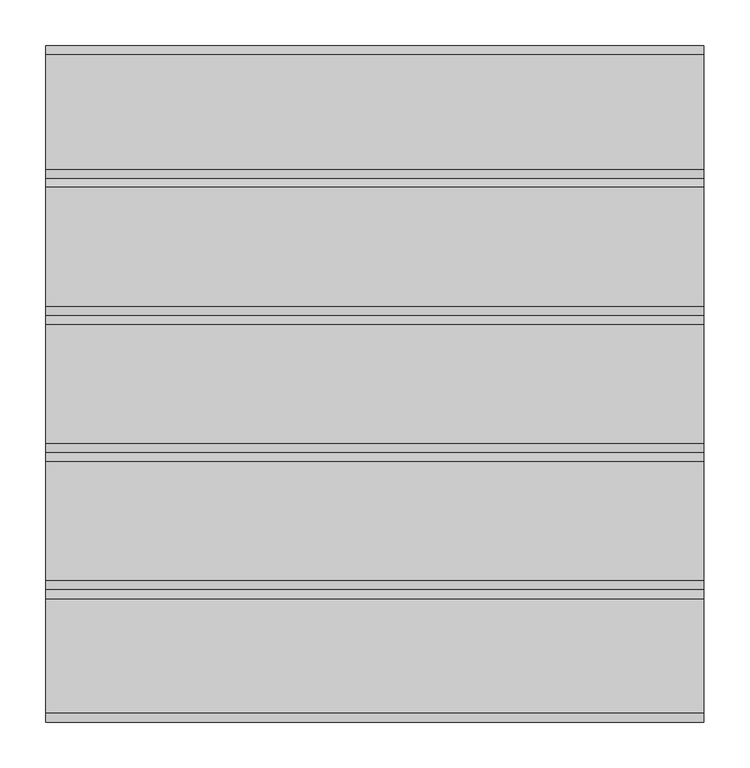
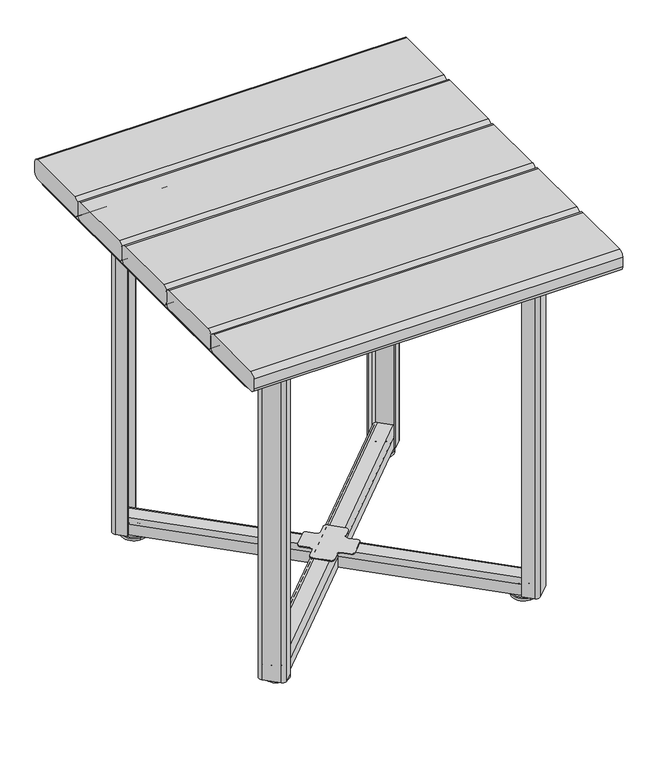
"""IFC4 building model written with IfcOpenShell, lengths in millimetres: furniture geometry, Roros Produkter - Trend - Table - Square - 74x74 - 32995 : Roros Produkter - Trend - Table - Square - 74x74 - 32995."""

from ifc_helpers import new_model, si_unit, point, frame, frame_2d, origin, place, context, project, spatial, polyline, circle_curve, ellipse_curve, trimmed, segment, composite_curve, outline, extrude, source, transform, mapped, element, save
from ifc_brep_helpers import plane_surface, cylinder_surface, revolved_surface, advanced_brep


def furniture_a0f1faf4(model_context):
    return source(origin(), model_context, "Body", "SolidModel", [
        extrude(outline(composite_curve([segment(polyline([(-46.3158909, 24.0593407), (-24.0420273, 46.3332043)]), True, "CONTINUOUS"), segment(trimmed(circle_curve(frame_2d((-19.7993866, 42.0905636)), 6.0), [point((-24.0420273, 46.3332043))], [point((-15.5567459, 46.3332043))], False, "CARTESIAN"), True, "CONTINUOUS"), segment(polyline([(-15.5567459, 46.3332043), (-4.0662607, 34.8427191)]), True, "CONTINUOUS"), segment(trimmed(circle_curve(frame_2d((0.17638, 39.0853598)), 6.0), [point((-4.0662607, 34.8427191))], [point((4.4190207, 34.8427191))], True, "CARTESIAN"), True, "CONTINUOUS"), segment(polyline([(4.4190207, 34.8427191), (15.9095059, 46.3332043)]), True, "CONTINUOUS"), segment(trimmed(circle_curve(frame_2d((20.1521465, 42.0905636)), 6.0), [point((15.9095059, 46.3332043))], [point((24.3947872, 46.3332043))], False, "CARTESIAN"), True, "CONTINUOUS"), segment(polyline([(24.3947872, 46.3332043), (46.6686508, 24.0593407)]), True, "CONTINUOUS"), segment(trimmed(circle_curve(frame_2d((42.4260102, 19.8167)), 6.0), [point((46.6686508, 24.0593407))], [point((46.6686508, 15.5740593))], False, "CARTESIAN"), True, "CONTINUOUS"), segment(polyline([(46.6686508, 15.5740593), (35.1781656, 4.0835741)]), True, "CONTINUOUS"), segment(trimmed(circle_curve(frame_2d((39.4208063, -0.1590666)), 6.0), [point((35.1781656, 4.0835741))], [point((35.1781656, -4.4017073))], True, "CARTESIAN"), True, "CONTINUOUS"), segment(polyline([(35.1781656, -4.4017073), (46.6686508, -15.8921925)]), True, "CONTINUOUS"), segment(trimmed(circle_curve(frame_2d((42.4260102, -20.1348331)), 6.0), [point((46.6686508, -15.8921925))], [point((46.6686508, -24.3774738))], False, "CARTESIAN"), True, "CONTINUOUS"), segment(polyline([(46.6686508, -24.3774738), (24.3947872, -46.6513374)]), True, "CONTINUOUS"), segment(trimmed(circle_curve(frame_2d((20.1521465, -42.4086967)), 6.0), [point((24.3947872, -46.6513374))], [point((15.9095059, -46.6513374))], False, "CARTESIAN"), True, "CONTINUOUS"), segment(polyline([(15.9095059, -46.6513374), (4.4190207, -35.1608522)]), True, "CONTINUOUS"), segment(trimmed(circle_curve(frame_2d((0.17638, -39.4034929)), 6.0), [point((4.4190207, -35.1608522))], [point((-4.0662607, -35.1608522))], True, "CARTESIAN"), True, "CONTINUOUS"), segment(polyline([(-4.0662607, -35.1608522), (-15.5567459, -46.6513374)]), True, "CONTINUOUS"), segment(trimmed(circle_curve(frame_2d((-19.7993866, -42.4086967)), 6.0), [point((-15.5567459, -46.6513374))], [point((-24.0420273, -46.6513374))], False, "CARTESIAN"), True, "CONTINUOUS"), segment(polyline([(-24.0420273, -46.6513374), (-46.3158909, -24.3774738)]), True, "CONTINUOUS"), segment(trimmed(circle_curve(frame_2d((-42.0732502, -20.1348331)), 6.0), [point((-46.3158909, -24.3774738))], [point((-46.3158909, -15.8921925))], False, "CARTESIAN"), True, "CONTINUOUS"), segment(polyline([(-46.3158909, -15.8921925), (-34.8254057, -4.4017073)]), True, "CONTINUOUS"), segment(trimmed(circle_curve(frame_2d((-39.0680464, -0.1590666)), 6.0), [point((-34.8254057, -4.4017073))], [point((-34.8254057, 4.0835741))], True, "CARTESIAN"), True, "CONTINUOUS"), segment(polyline([(-34.8254057, 4.0835741), (-46.3158909, 15.5740593)]), True, "CONTINUOUS"), segment(trimmed(circle_curve(frame_2d((-42.0732502, 19.8167)), 6.0), [point((-46.3158909, 15.5740593))], [point((-46.3158909, 24.0593407))], False, "CARTESIAN"), True, "CONTINUOUS")], self_intersect=False)), frame((0.0, 0.0, 40.0), z_axis=(0.0, 0.0, 1.0), x_axis=(1.0, 0.0, 0.0)), (0.0, 0.0, 1.0), 1.5),
        extrude(outline(polyline([(250.6904144, 236.906746), (242.1904144, 231.9992687), (233.6904144, 236.906746), (233.6904144, 246.7217005), (242.1904144, 251.6291778), (250.6904144, 246.7217005), (250.6904144, 236.906746)])), frame((0.0, 0.0, 10.0), z_axis=(0.0, 0.0, 1.0), x_axis=(1.0, 0.0, 0.0)), (0.0, 0.0, 1.0), 11.7),
        advanced_brep(
        [(241.4759483, 218.3156375, 0.0), (241.4759483, 265.312809, 0.0), (241.4759483, 265.312809, 4.3376919), (241.4759483, 218.3156375, 4.3376919), (241.4759483, 264.3220493, 6.0888539), (241.4759483, 219.3063972, 6.0888539), (241.4759483, 257.812809, 10.0), (241.4759483, 225.8156375, 10.0), (241.4759483, 241.8142233, 10.0), (241.4759483, 241.8142233, 0.0)],
        [
            (0, 1, circle_curve(frame((241.4759483, 241.8142233, 0.0), z_axis=(0.0, 0.0, 1.0), x_axis=(0.0, 1.0, 0.0)), 23.4985858)),
            (1, 2),
            (2, 3, circle_curve(frame((241.4759483, 241.8142233, 4.3376919), z_axis=(0.0, 0.0, -1.0), x_axis=(0.0, 1.0, 0.0)), 23.4985858)),
            (3, 0),
            (1, 0, circle_curve(frame((241.4759483, 241.8142233, 0.0), z_axis=(0.0, 0.0, 1.0), x_axis=(0.0, 1.0, 0.0)), 23.4985858)),
            (3, 2, circle_curve(frame((241.4759483, 241.8142233, 4.3376919), z_axis=(0.0, 0.0, -1.0), x_axis=(0.0, 1.0, 0.0)), 23.4985858)),
            (2, 4, circle_curve(frame((241.4759483, 263.269845, 4.3376919), z_axis=(1.0, 0.0, 0.0), x_axis=(0.0, -1.0, 0.0)), 2.042964)),
            (4, 5, circle_curve(frame((241.4759483, 241.8142233, 6.0888539), z_axis=(0.0, 0.0, -1.0), x_axis=(0.0, 1.0, 0.0)), 22.507826)),
            (5, 3, circle_curve(frame((241.4759483, 220.3586015, 4.3376919), z_axis=(1.0, 0.0, 0.0), x_axis=(0.0, 1.0, 0.0)), 2.042964)),
            (5, 4, circle_curve(frame((241.4759483, 241.8142233, 6.0888539), z_axis=(0.0, 0.0, -1.0), x_axis=(0.0, 1.0, 0.0)), 22.507826)),
            (4, 6),
            (6, 7, circle_curve(frame((241.4759483, 241.8142233, 10.0), z_axis=(0.0, 0.0, -1.0), x_axis=(0.0, 1.0, 0.0)), 15.9985858)),
            (7, 5),
            (7, 6, circle_curve(frame((241.4759483, 241.8142233, 10.0), z_axis=(0.0, 0.0, -1.0), x_axis=(0.0, 1.0, 0.0)), 15.9985858)),
            (6, 8),
            (8, 7),
            (9, 1),
            (0, 9),
        ],
        [
            cylinder_surface(frame((241.4759483, 241.8142233, 10.0), z_axis=(0.0, 0.0, -1.0), x_axis=(0.0, 1.0, 0.0)), 23.4985858),
            revolved_surface(trimmed(ellipse_curve(frame((241.4759483, 263.269845, 4.3376919), z_axis=(-1.0, 0.0, 0.0), x_axis=(0.0, -1.0, 0.0)), 2.042964, 2.042964), [point((241.4759483, 264.3220493, 6.0888539))], [point((241.4759483, 265.312809, 4.3376919))], True, "CARTESIAN"), (241.4759483, 241.8142233, 10.0), (0.0, 0.0, -1.0)),
            revolved_surface(polyline([(241.4759483, 257.812809, 10.0), (241.4759483, 264.3220493, 6.0888539)]), (241.4759483, 241.8142233, 10.0), (0.0, 0.0, -1.0)),
            plane_surface(frame((241.4759483, 241.8142233, 10.0), z_axis=(0.0, 0.0, 1.0), x_axis=(0.0, 1.0, 0.0))),
            plane_surface(frame((241.4759483, 241.8142233, 0.0), z_axis=(0.0, 0.0, -1.0), x_axis=(0.0, 1.0, 0.0))),
        ],
        [
            (0, [[1, 2, 3, 4]]),
            (0, [[5, -4, 6, -2]]),
            (1, [[-3, 7, 8, 9]]),
            (1, [[-6, -9, 10, -7]]),
            (2, [[-8, 11, 12, 13]]),
            (2, [[-10, -13, 14, -11]]),
            (3, [[-12, 15, 16]]),
            (3, [[-14, -16, -15]]),
            (4, [[17, -1, 18]]),
            (4, [[-18, -5, -17]]),
        ],
    ),
        extrude(outline(composite_curve([segment(trimmed(circle_curve(frame_2d((271.352624, 247.2928866)), 8.0), [point((277.0094782, 252.9497408))], [point((277.0094782, 241.6360323))], False, "CARTESIAN"), True, "CONTINUOUS"), segment(polyline([(277.0094782, 241.6360323), (261.4531291, 226.0796832), (259.3318087, 228.2010035), (274.8881579, 243.7573527)]), True, "CONTINUOUS"), segment(trimmed(circle_curve(frame_2d((271.352624, 247.2928866)), 5.0), [point((274.8881579, 243.7573527))], [point((274.8881579, 250.8284205))], True, "CARTESIAN"), True, "CONTINUOUS"), segment(polyline([(274.8881579, 250.8284205), (250.8465273, 274.8700511)]), True, "CONTINUOUS"), segment(trimmed(circle_curve(frame_2d((247.3109934, 271.3345172)), 5.0), [point((250.8465273, 274.8700511))], [point((243.7754595, 274.8700511))], True, "CARTESIAN"), True, "CONTINUOUS"), segment(polyline([(243.7754595, 274.8700511), (228.2191103, 259.3137019), (226.09779, 261.4350222), (241.6541392, 276.9913714)]), True, "CONTINUOUS"), segment(trimmed(circle_curve(frame_2d((247.3109934, 271.3345172)), 8.0), [point((241.6541392, 276.9913714))], [point((252.9678477, 276.9913714))], False, "CARTESIAN"), True, "CONTINUOUS"), segment(polyline([(252.9678477, 276.9913714), (277.0094782, 252.9497408)]), True, "CONTINUOUS")], self_intersect=False)), frame((0.0, 0.0, 9.3192284), z_axis=(0.0, 0.0, 1.0), x_axis=(1.0, 0.0, 0.0)), (0.0, 0.0, 1.0), 692.8807716),
        extrude(outline(polyline([(250.6904144, -236.906746), (250.6904144, -246.7217005), (242.1904144, -251.6291778), (233.6904144, -246.7217005), (233.6904144, -236.906746), (242.1904144, -231.9992687), (250.6904144, -236.906746)])), frame((0.0, 0.0, 10.0), z_axis=(0.0, 0.0, 1.0), x_axis=(1.0, 0.0, 0.0)), (0.0, 0.0, 1.0), 11.7),
        advanced_brep(
        [(241.4759483, -218.3156375, 4.3376919), (241.4759483, -265.312809, 4.3376919), (241.4759483, -265.312809, 0.0), (241.4759483, -218.3156375, 0.0), (241.4759483, -219.3063972, 6.0888539), (241.4759483, -264.3220493, 6.0888539), (241.4759483, -225.8156375, 10.0), (241.4759483, -257.812809, 10.0), (241.4759483, -241.8142233, 10.0), (241.4759483, -241.8142233, 0.0)],
        [
            (0, 1, circle_curve(frame((241.4759483, -241.8142233, 4.3376919), z_axis=(0.0, 0.0, -1.0), x_axis=(0.0, -1.0, 0.0)), 23.4985858)),
            (1, 2),
            (2, 3, circle_curve(frame((241.4759483, -241.8142233, 0.0), z_axis=(0.0, 0.0, 1.0), x_axis=(0.0, -1.0, 0.0)), 23.4985858)),
            (3, 0),
            (1, 0, circle_curve(frame((241.4759483, -241.8142233, 4.3376919), z_axis=(0.0, 0.0, -1.0), x_axis=(0.0, -1.0, 0.0)), 23.4985858)),
            (3, 2, circle_curve(frame((241.4759483, -241.8142233, 0.0), z_axis=(0.0, 0.0, 1.0), x_axis=(0.0, -1.0, 0.0)), 23.4985858)),
            (4, 5, circle_curve(frame((241.4759483, -241.8142233, 6.0888539), z_axis=(0.0, 0.0, -1.0), x_axis=(0.0, -1.0, 0.0)), 22.507826)),
            (5, 1, circle_curve(frame((241.4759483, -263.269845, 4.3376919), z_axis=(1.0, 0.0, 0.0), x_axis=(0.0, 1.0, 0.0)), 2.042964)),
            (0, 4, circle_curve(frame((241.4759483, -220.3586015, 4.3376919), z_axis=(1.0, 0.0, 0.0), x_axis=(0.0, -1.0, 0.0)), 2.042964)),
            (5, 4, circle_curve(frame((241.4759483, -241.8142233, 6.0888539), z_axis=(0.0, 0.0, -1.0), x_axis=(0.0, -1.0, 0.0)), 22.507826)),
            (6, 7, circle_curve(frame((241.4759483, -241.8142233, 10.0), z_axis=(0.0, 0.0, -1.0), x_axis=(0.0, -1.0, 0.0)), 15.9985858)),
            (7, 5),
            (4, 6),
            (7, 6, circle_curve(frame((241.4759483, -241.8142233, 10.0), z_axis=(0.0, 0.0, -1.0), x_axis=(0.0, -1.0, 0.0)), 15.9985858)),
            (8, 7),
            (6, 8),
            (2, 9),
            (9, 3),
        ],
        [
            cylinder_surface(frame((241.4759483, -241.8142233, 10.0), z_axis=(0.0, 0.0, 1.0), x_axis=(0.0, -1.0, 0.0)), 23.4985858),
            revolved_surface(trimmed(ellipse_curve(frame((241.4759483, -263.269845, 4.3376919), z_axis=(-1.0, 0.0, 0.0), x_axis=(0.0, 1.0, 0.0)), 2.042964, 2.042964), [point((241.4759483, -265.312809, 4.3376919))], [point((241.4759483, -264.3220493, 6.0888539))], True, "CARTESIAN"), (241.4759483, -241.8142233, 10.0), (0.0, 0.0, 1.0)),
            revolved_surface(polyline([(241.4759483, -264.3220493, 6.0888539), (241.4759483, -257.812809, 10.0)]), (241.4759483, -241.8142233, 10.0), (0.0, 0.0, 1.0)),
            plane_surface(frame((241.4759483, -241.8142233, 10.0), z_axis=(0.0, 0.0, 1.0), x_axis=(0.0, -1.0, 0.0))),
            plane_surface(frame((241.4759483, -241.8142233, 0.0), z_axis=(0.0, 0.0, -1.0), x_axis=(0.0, -1.0, 0.0))),
        ],
        [
            (0, [[1, 2, 3, 4]]),
            (0, [[5, -4, 6, -2]]),
            (1, [[7, 8, -1, 9]]),
            (1, [[10, -9, -5, -8]]),
            (2, [[11, 12, -7, 13]]),
            (2, [[14, -13, -10, -12]]),
            (3, [[15, -11, 16]]),
            (3, [[-16, -14, -15]]),
            (4, [[-3, 17, 18]]),
            (4, [[-6, -18, -17]]),
        ],
    ),
        extrude(outline(composite_curve([segment(polyline([(277.0094782, -252.9497408), (252.9678477, -276.9913714)]), True, "CONTINUOUS"), segment(trimmed(circle_curve(frame_2d((247.3109934, -271.3345172)), 8.0), [point((252.9678477, -276.9913714))], [point((241.6541392, -276.9913714))], False, "CARTESIAN"), True, "CONTINUOUS"), segment(polyline([(241.6541392, -276.9913714), (226.09779, -261.4350222), (228.2191103, -259.3137019), (243.7754595, -274.8700511)]), True, "CONTINUOUS"), segment(trimmed(circle_curve(frame_2d((247.3109934, -271.3345172)), 5.0), [point((243.7754595, -274.8700511))], [point((250.8465273, -274.8700511))], True, "CARTESIAN"), True, "CONTINUOUS"), segment(polyline([(250.8465273, -274.8700511), (274.8881579, -250.8284205)]), True, "CONTINUOUS"), segment(trimmed(circle_curve(frame_2d((271.352624, -247.2928866)), 5.0), [point((274.8881579, -250.8284205))], [point((274.8881579, -243.7573527))], True, "CARTESIAN"), True, "CONTINUOUS"), segment(polyline([(274.8881579, -243.7573527), (259.3318087, -228.2010035), (261.4531291, -226.0796832), (277.0094782, -241.6360323)]), True, "CONTINUOUS"), segment(trimmed(circle_curve(frame_2d((271.352624, -247.2928866)), 8.0), [point((277.0094782, -241.6360323))], [point((277.0094782, -252.9497408))], False, "CARTESIAN"), True, "CONTINUOUS")], self_intersect=False)), frame((0.0, 0.0, 9.3192284), z_axis=(0.0, 0.0, 1.0), x_axis=(1.0, 0.0, 0.0)), (0.0, 0.0, 1.0), 692.8807716),
        extrude(outline(polyline([(-250.6904144, 236.906746), (-250.6904144, 246.7217005), (-242.1904144, 251.6291778), (-233.6904144, 246.7217005), (-233.6904144, 236.906746), (-242.1904144, 231.9992687), (-250.6904144, 236.906746)])), frame((0.0, 0.0, 10.0), z_axis=(0.0, 0.0, 1.0), x_axis=(1.0, 0.0, 0.0)), (0.0, 0.0, 1.0), 11.7),
        advanced_brep(
        [(-241.4759483, 218.3156375, 4.3376919), (-241.4759483, 265.312809, 4.3376919), (-241.4759483, 265.312809, 0.0), (-241.4759483, 218.3156375, 0.0), (-241.4759483, 219.3063972, 6.0888539), (-241.4759483, 264.3220493, 6.0888539), (-241.4759483, 225.8156375, 10.0), (-241.4759483, 257.812809, 10.0), (-241.4759483, 241.8142233, 10.0), (-241.4759483, 241.8142233, 0.0)],
        [
            (0, 1, circle_curve(frame((-241.4759483, 241.8142233, 4.3376919), z_axis=(0.0, 0.0, -1.0), x_axis=(0.0, 1.0, 0.0)), 23.4985858)),
            (1, 2),
            (2, 3, circle_curve(frame((-241.4759483, 241.8142233, 0.0), z_axis=(0.0, 0.0, 1.0), x_axis=(0.0, 1.0, 0.0)), 23.4985858)),
            (3, 0),
            (1, 0, circle_curve(frame((-241.4759483, 241.8142233, 4.3376919), z_axis=(0.0, 0.0, -1.0), x_axis=(0.0, 1.0, 0.0)), 23.4985858)),
            (3, 2, circle_curve(frame((-241.4759483, 241.8142233, 0.0), z_axis=(0.0, 0.0, 1.0), x_axis=(0.0, 1.0, 0.0)), 23.4985858)),
            (4, 5, circle_curve(frame((-241.4759483, 241.8142233, 6.0888539), z_axis=(0.0, 0.0, -1.0), x_axis=(0.0, 1.0, 0.0)), 22.507826)),
            (5, 1, circle_curve(frame((-241.4759483, 263.269845, 4.3376919), z_axis=(-1.0, 0.0, 0.0), x_axis=(0.0, -1.0, 0.0)), 2.042964)),
            (0, 4, circle_curve(frame((-241.4759483, 220.3586015, 4.3376919), z_axis=(-1.0, 0.0, 0.0), x_axis=(0.0, 1.0, 0.0)), 2.042964)),
            (5, 4, circle_curve(frame((-241.4759483, 241.8142233, 6.0888539), z_axis=(0.0, 0.0, -1.0), x_axis=(0.0, 1.0, 0.0)), 22.507826)),
            (6, 7, circle_curve(frame((-241.4759483, 241.8142233, 10.0), z_axis=(0.0, 0.0, -1.0), x_axis=(0.0, 1.0, 0.0)), 15.9985858)),
            (7, 5),
            (4, 6),
            (7, 6, circle_curve(frame((-241.4759483, 241.8142233, 10.0), z_axis=(0.0, 0.0, -1.0), x_axis=(0.0, 1.0, 0.0)), 15.9985858)),
            (8, 7),
            (6, 8),
            (2, 9),
            (9, 3),
        ],
        [
            cylinder_surface(frame((-241.4759483, 241.8142233, 10.0), z_axis=(0.0, 0.0, 1.0), x_axis=(0.0, 1.0, 0.0)), 23.4985858),
            revolved_surface(trimmed(ellipse_curve(frame((-241.4759483, 263.269845, 4.3376919), z_axis=(1.0, 0.0, 0.0), x_axis=(0.0, -1.0, 0.0)), 2.042964, 2.042964), [point((-241.4759483, 265.312809, 4.3376919))], [point((-241.4759483, 264.3220493, 6.0888539))], True, "CARTESIAN"), (-241.4759483, 241.8142233, 10.0), (0.0, 0.0, 1.0)),
            revolved_surface(polyline([(-241.4759483, 264.3220493, 6.0888539), (-241.4759483, 257.812809, 10.0)]), (-241.4759483, 241.8142233, 10.0), (0.0, 0.0, 1.0)),
            plane_surface(frame((-241.4759483, 241.8142233, 10.0), z_axis=(0.0, 0.0, 1.0), x_axis=(0.0, 1.0, 0.0))),
            plane_surface(frame((-241.4759483, 241.8142233, 0.0), z_axis=(0.0, 0.0, -1.0), x_axis=(0.0, 1.0, 0.0))),
        ],
        [
            (0, [[1, 2, 3, 4]]),
            (0, [[5, -4, 6, -2]]),
            (1, [[7, 8, -1, 9]]),
            (1, [[10, -9, -5, -8]]),
            (2, [[11, 12, -7, 13]]),
            (2, [[14, -13, -10, -12]]),
            (3, [[15, -11, 16]]),
            (3, [[-16, -14, -15]]),
            (4, [[-3, 17, 18]]),
            (4, [[-6, -18, -17]]),
        ],
    ),
        extrude(outline(composite_curve([segment(polyline([(22.0002, 0.0), (22.0002, -3.0), (0.0002, -3.0)]), True, "CONTINUOUS"), segment(trimmed(circle_curve(frame_2d((0.0002, 5.0)), 8.0), [point((0.0002, -3.0))], [point((-7.9998, 5.0))], False, "CARTESIAN"), True, "CONTINUOUS"), segment(polyline([(-7.9998, 5.0), (-7.9998, 32.4999999)]), True, "CONTINUOUS"), segment(trimmed(circle_curve(frame_2d((0.0002, 32.4999999)), 8.0), [point((-7.9998, 32.4999999))], [point((0.0002, 40.4999999))], False, "CARTESIAN"), True, "CONTINUOUS"), segment(polyline([(0.0002, 40.4999999), (22.0002, 40.4999999), (22.0002, 37.5), (0.0002, 37.5)]), True, "CONTINUOUS"), segment(trimmed(circle_curve(frame_2d((0.0002, 32.4999999)), 5.0), [point((0.0002, 37.5))], [point((-4.9998, 32.4999999))], True, "CARTESIAN"), True, "CONTINUOUS"), segment(polyline([(-4.9998, 32.4999999), (-4.9998, 5.0)]), True, "CONTINUOUS"), segment(trimmed(circle_curve(frame_2d((0.0002, 5.0)), 5.0), [point((-4.9998, 5.0))], [point((0.0002, 0.0))], True, "CARTESIAN"), True, "CONTINUOUS"), segment(polyline([(0.0002, 0.0), (22.0002, 0.0)]), True, "CONTINUOUS")], self_intersect=False)), frame((272.0589373, -245.2069865, 32.0002), z_axis=(-0.7071067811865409, 0.7071067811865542, 0.0), x_axis=(0.0, 0.0, -1.0)), (0.0, 0.0, 1.0), 731.5),
        extrude(outline(composite_curve([segment(polyline([(22.0002, 0.0), (22.0002, -3.0), (0.0002, -3.0)]), True, "CONTINUOUS"), segment(trimmed(circle_curve(frame_2d((0.0002, 5.0)), 8.0), [point((0.0002, -3.0))], [point((-7.9998, 5.0))], False, "CARTESIAN"), True, "CONTINUOUS"), segment(polyline([(-7.9998, 5.0), (-7.9998, 32.4999999)]), True, "CONTINUOUS"), segment(trimmed(circle_curve(frame_2d((0.0002, 32.4999999)), 8.0), [point((-7.9998, 32.4999999))], [point((0.0002, 40.4999999))], False, "CARTESIAN"), True, "CONTINUOUS"), segment(polyline([(0.0002, 40.4999999), (22.0002, 40.4999999), (22.0002, 37.5), (0.0002, 37.5)]), True, "CONTINUOUS"), segment(trimmed(circle_curve(frame_2d((0.0002, 32.4999999)), 5.0), [point((0.0002, 37.5))], [point((-4.9998, 32.4999999))], True, "CARTESIAN"), True, "CONTINUOUS"), segment(polyline([(-4.9998, 32.4999999), (-4.9998, 5.0)]), True, "CONTINUOUS"), segment(trimmed(circle_curve(frame_2d((0.0002, 5.0)), 5.0), [point((-4.9998, 5.0))], [point((0.0002, 0.0))], True, "CARTESIAN"), True, "CONTINUOUS"), segment(polyline([(0.0002, 0.0), (22.0002, 0.0)]), True, "CONTINUOUS")], self_intersect=False)), frame((272.0589373, -245.2069865, 694.2002), z_axis=(-0.7071067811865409, 0.7071067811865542, 0.0), x_axis=(0.0, 0.0, -1.0)), (0.0, 0.0, 1.0), 731.5),
        extrude(outline(composite_curve([segment(polyline([(-277.0094782, 252.9497408), (-252.9678477, 276.9913714)]), True, "CONTINUOUS"), segment(trimmed(circle_curve(frame_2d((-247.3109934, 271.3345172)), 8.0), [point((-252.9678477, 276.9913714))], [point((-241.6541392, 276.9913714))], False, "CARTESIAN"), True, "CONTINUOUS"), segment(polyline([(-241.6541392, 276.9913714), (-226.09779, 261.4350222), (-228.2191103, 259.3137019), (-243.7754595, 274.8700511)]), True, "CONTINUOUS"), segment(trimmed(circle_curve(frame_2d((-247.3109934, 271.3345172)), 5.0), [point((-243.7754595, 274.8700511))], [point((-250.8465273, 274.8700511))], True, "CARTESIAN"), True, "CONTINUOUS"), segment(polyline([(-250.8465273, 274.8700511), (-274.8881579, 250.8284205)]), True, "CONTINUOUS"), segment(trimmed(circle_curve(frame_2d((-271.352624, 247.2928866)), 5.0), [point((-274.8881579, 250.8284205))], [point((-274.8881579, 243.7573527))], True, "CARTESIAN"), True, "CONTINUOUS"), segment(polyline([(-274.8881579, 243.7573527), (-259.3318087, 228.2010035), (-261.4531291, 226.0796832), (-277.0094782, 241.6360323)]), True, "CONTINUOUS"), segment(trimmed(circle_curve(frame_2d((-271.352624, 247.2928866)), 8.0), [point((-277.0094782, 241.6360323))], [point((-277.0094782, 252.9497408))], False, "CARTESIAN"), True, "CONTINUOUS")], self_intersect=False)), frame((0.0, 0.0, 9.3192284), z_axis=(0.0, 0.0, 1.0), x_axis=(1.0, 0.0, 0.0)), (0.0, 0.0, 1.0), 692.8807716),
        extrude(outline(composite_curve([segment(polyline([(-300.0, 340.0), (-300.0, -340.0)]), True, "CONTINUOUS"), segment(trimmed(circle_curve(frame_2d((-320.0, -340.0)), 20.0), [point((-300.0, -340.0))], [point((-320.0, -360.0))], False, "CARTESIAN"), True, "CONTINUOUS"), segment(polyline([(-320.0, -360.0), (-340.0, -360.0)]), True, "CONTINUOUS"), segment(trimmed(circle_curve(frame_2d((-340.0, -340.0)), 20.0), [point((-340.0, -360.0))], [point((-360.0, -340.0))], False, "CARTESIAN"), True, "CONTINUOUS"), segment(polyline([(-360.0, -340.0), (-360.0, 340.0)]), True, "CONTINUOUS"), segment(trimmed(circle_curve(frame_2d((-340.0, 340.0)), 20.0), [point((-360.0, 340.0))], [point((-340.0, 360.0))], False, "CARTESIAN"), True, "CONTINUOUS"), segment(polyline([(-340.0, 360.0), (-320.0, 360.0)]), True, "CONTINUOUS"), segment(trimmed(circle_curve(frame_2d((-320.0, 340.0)), 20.0), [point((-320.0, 360.0))], [point((-300.0, 340.0))], False, "CARTESIAN"), True, "CONTINUOUS")], self_intersect=False)), frame((0.0, 0.0, 698.0), z_axis=(0.0, 0.0, 1.0), x_axis=(1.0, 0.0, 0.0)), (0.0, 0.0, 1.0), 2.0),
        extrude(outline(composite_curve([segment(polyline([(300.0, -340.0), (300.0, 340.0)]), True, "CONTINUOUS"), segment(trimmed(circle_curve(frame_2d((320.0, 340.0)), 20.0), [point((300.0, 340.0))], [point((320.0, 360.0))], False, "CARTESIAN"), True, "CONTINUOUS"), segment(polyline([(320.0, 360.0), (340.0, 360.0)]), True, "CONTINUOUS"), segment(trimmed(circle_curve(frame_2d((340.0, 340.0)), 20.0), [point((340.0, 360.0))], [point((360.0, 340.0))], False, "CARTESIAN"), True, "CONTINUOUS"), segment(polyline([(360.0, 340.0), (360.0, -340.0)]), True, "CONTINUOUS"), segment(trimmed(circle_curve(frame_2d((340.0, -340.0)), 20.0), [point((360.0, -340.0))], [point((340.0, -360.0))], False, "CARTESIAN"), True, "CONTINUOUS"), segment(polyline([(340.0, -360.0), (320.0, -360.0)]), True, "CONTINUOUS"), segment(trimmed(circle_curve(frame_2d((320.0, -340.0)), 20.0), [point((320.0, -360.0))], [point((300.0, -340.0))], False, "CARTESIAN"), True, "CONTINUOUS")], self_intersect=False)), frame((0.0, 0.0, 698.0), z_axis=(0.0, 0.0, 1.0), x_axis=(1.0, 0.0, 0.0)), (0.0, 0.0, 1.0), 2.0),
        extrude(outline(composite_curve([segment(trimmed(circle_curve(frame_2d((65.0, 730.0)), 10.0), [point((65.0, 740.0))], [point((75.0, 730.0))], False, "CARTESIAN"), True, "CONTINUOUS"), segment(polyline([(75.0, 730.0), (75.0, 710.0)]), True, "CONTINUOUS"), segment(trimmed(circle_curve(frame_2d((65.0, 710.0)), 10.0), [point((75.0, 710.0))], [point((65.0, 700.0))], False, "CARTESIAN"), True, "CONTINUOUS"), segment(polyline([(65.0, 700.0), (-65.0, 700.0)]), True, "CONTINUOUS"), segment(trimmed(circle_curve(frame_2d((-65.0, 710.0)), 10.0), [point((-65.0, 700.0))], [point((-75.0, 710.0))], False, "CARTESIAN"), True, "CONTINUOUS"), segment(polyline([(-75.0, 710.0), (-75.0, 730.0)]), True, "CONTINUOUS"), segment(trimmed(circle_curve(frame_2d((-65.0, 730.0)), 10.0), [point((-75.0, 730.0))], [point((-65.0, 740.0))], False, "CARTESIAN"), True, "CONTINUOUS"), segment(polyline([(-65.0, 740.0), (65.0, 740.0)]), True, "CONTINUOUS")], self_intersect=False)), frame((-360.0, 0.0, 0.0), z_axis=(1.0, 0.0, 0.0), x_axis=(0.0, 1.0, 0.0)), (0.0, 0.0, 1.0), 720.0),
        extrude(outline(composite_curve([segment(trimmed(circle_curve(frame_2d((360.0, 730.0)), 10.0), [point((360.0, 740.0))], [point((370.0, 730.0))], False, "CARTESIAN"), True, "CONTINUOUS"), segment(polyline([(370.0, 730.0), (370.0, 710.0)]), True, "CONTINUOUS"), segment(trimmed(circle_curve(frame_2d((360.0, 710.0)), 10.0), [point((370.0, 710.0))], [point((360.0, 700.0))], False, "CARTESIAN"), True, "CONTINUOUS"), segment(polyline([(360.0, 700.0), (235.0, 700.0)]), True, "CONTINUOUS"), segment(trimmed(circle_curve(frame_2d((235.0, 710.0)), 10.0), [point((235.0, 700.0))], [point((225.0, 710.0))], False, "CARTESIAN"), True, "CONTINUOUS"), segment(polyline([(225.0, 710.0), (225.0, 730.0)]), True, "CONTINUOUS"), segment(trimmed(circle_curve(frame_2d((235.0, 730.0)), 10.0), [point((225.0, 730.0))], [point((235.0, 740.0))], False, "CARTESIAN"), True, "CONTINUOUS"), segment(polyline([(235.0, 740.0), (360.0, 740.0)]), True, "CONTINUOUS")], self_intersect=False)), frame((-360.0, 0.0, 0.0), z_axis=(1.0, 0.0, 0.0), x_axis=(0.0, 1.0, 0.0)), (0.0, 0.0, 1.0), 720.0),
        extrude(outline(composite_curve([segment(polyline([(-360.0, 740.0), (-235.0, 740.0)]), True, "CONTINUOUS"), segment(trimmed(circle_curve(frame_2d((-235.0, 730.0)), 10.0), [point((-235.0, 740.0))], [point((-225.0, 730.0))], False, "CARTESIAN"), True, "CONTINUOUS"), segment(polyline([(-225.0, 730.0), (-225.0, 710.0)]), True, "CONTINUOUS"), segment(trimmed(circle_curve(frame_2d((-235.0, 710.0)), 10.0), [point((-225.0, 710.0))], [point((-235.0, 700.0))], False, "CARTESIAN"), True, "CONTINUOUS"), segment(polyline([(-235.0, 700.0), (-360.0, 700.0)]), True, "CONTINUOUS"), segment(trimmed(circle_curve(frame_2d((-360.0, 710.0)), 10.0), [point((-360.0, 700.0))], [point((-370.0, 710.0))], False, "CARTESIAN"), True, "CONTINUOUS"), segment(polyline([(-370.0, 710.0), (-370.0, 730.0)]), True, "CONTINUOUS"), segment(trimmed(circle_curve(frame_2d((-360.0, 730.0)), 10.0), [point((-370.0, 730.0))], [point((-360.0, 740.0))], False, "CARTESIAN"), True, "CONTINUOUS")], self_intersect=False)), frame((-360.0, 0.0, 0.0), z_axis=(1.0, 0.0, 0.0), x_axis=(0.0, 1.0, 0.0)), (0.0, 0.0, 1.0), 720.0),
        extrude(outline(composite_curve([segment(trimmed(circle_curve(frame_2d((215.0, 730.0)), 10.0), [point((215.0, 740.0))], [point((225.0, 730.0))], False, "CARTESIAN"), True, "CONTINUOUS"), segment(polyline([(225.0, 730.0), (225.0, 710.0)]), True, "CONTINUOUS"), segment(trimmed(circle_curve(frame_2d((215.0, 710.0)), 10.0), [point((225.0, 710.0))], [point((215.0, 700.0))], False, "CARTESIAN"), True, "CONTINUOUS"), segment(polyline([(215.0, 700.0), (85.0, 700.0)]), True, "CONTINUOUS"), segment(trimmed(circle_curve(frame_2d((85.0, 710.0)), 10.0), [point((85.0, 700.0))], [point((75.0, 710.0))], False, "CARTESIAN"), True, "CONTINUOUS"), segment(polyline([(75.0, 710.0), (75.0, 730.0)]), True, "CONTINUOUS"), segment(trimmed(circle_curve(frame_2d((85.0, 730.0)), 10.0), [point((75.0, 730.0))], [point((85.0, 740.0))], False, "CARTESIAN"), True, "CONTINUOUS"), segment(polyline([(85.0, 740.0), (215.0, 740.0)]), True, "CONTINUOUS")], self_intersect=False)), frame((-360.0, 0.0, 0.0), z_axis=(1.0, 0.0, 0.0), x_axis=(0.0, 1.0, 0.0)), (0.0, 0.0, 1.0), 720.0),
        extrude(outline(composite_curve([segment(trimmed(circle_curve(frame_2d((-85.0, 730.0)), 10.0), [point((-85.0, 740.0))], [point((-75.0, 730.0))], False, "CARTESIAN"), True, "CONTINUOUS"), segment(polyline([(-75.0, 730.0), (-75.0, 710.0)]), True, "CONTINUOUS"), segment(trimmed(circle_curve(frame_2d((-85.0, 710.0)), 10.0), [point((-75.0, 710.0))], [point((-85.0, 700.0))], False, "CARTESIAN"), True, "CONTINUOUS"), segment(polyline([(-85.0, 700.0), (-215.0, 700.0)]), True, "CONTINUOUS"), segment(trimmed(circle_curve(frame_2d((-215.0, 710.0)), 10.0), [point((-215.0, 700.0))], [point((-225.0, 710.0))], False, "CARTESIAN"), True, "CONTINUOUS"), segment(polyline([(-225.0, 710.0), (-225.0, 730.0)]), True, "CONTINUOUS"), segment(trimmed(circle_curve(frame_2d((-215.0, 730.0)), 10.0), [point((-225.0, 730.0))], [point((-215.0, 740.0))], False, "CARTESIAN"), True, "CONTINUOUS"), segment(polyline([(-215.0, 740.0), (-85.0, 740.0)]), True, "CONTINUOUS")], self_intersect=False)), frame((-360.0, 0.0, 0.0), z_axis=(1.0, 0.0, 0.0), x_axis=(0.0, 1.0, 0.0)), (0.0, 0.0, 1.0), 720.0),
        extrude(outline(polyline([(-250.6904144, -236.906746), (-242.1904144, -231.9992687), (-233.6904144, -236.906746), (-233.6904144, -246.7217005), (-242.1904144, -251.6291778), (-250.6904144, -246.7217005), (-250.6904144, -236.906746)])), frame((0.0, 0.0, 10.0), z_axis=(0.0, 0.0, 1.0), x_axis=(1.0, 0.0, 0.0)), (0.0, 0.0, 1.0), 11.7),
        advanced_brep(
        [(-241.4759483, -218.3156375, 0.0), (-241.4759483, -265.312809, 0.0), (-241.4759483, -265.312809, 4.3376919), (-241.4759483, -218.3156375, 4.3376919), (-241.4759483, -264.3220493, 6.0888539), (-241.4759483, -219.3063972, 6.0888539), (-241.4759483, -257.812809, 10.0), (-241.4759483, -225.8156375, 10.0), (-241.4759483, -241.8142233, 10.0), (-241.4759483, -241.8142233, 0.0)],
        [
            (0, 1, circle_curve(frame((-241.4759483, -241.8142233, 0.0), z_axis=(0.0, 0.0, 1.0), x_axis=(0.0, -1.0, 0.0)), 23.4985858)),
            (1, 2),
            (2, 3, circle_curve(frame((-241.4759483, -241.8142233, 4.3376919), z_axis=(0.0, 0.0, -1.0), x_axis=(0.0, -1.0, 0.0)), 23.4985858)),
            (3, 0),
            (1, 0, circle_curve(frame((-241.4759483, -241.8142233, 0.0), z_axis=(0.0, 0.0, 1.0), x_axis=(0.0, -1.0, 0.0)), 23.4985858)),
            (3, 2, circle_curve(frame((-241.4759483, -241.8142233, 4.3376919), z_axis=(0.0, 0.0, -1.0), x_axis=(0.0, -1.0, 0.0)), 23.4985858)),
            (2, 4, circle_curve(frame((-241.4759483, -263.269845, 4.3376919), z_axis=(-1.0, 0.0, 0.0), x_axis=(0.0, 1.0, 0.0)), 2.042964)),
            (4, 5, circle_curve(frame((-241.4759483, -241.8142233, 6.0888539), z_axis=(0.0, 0.0, -1.0), x_axis=(0.0, -1.0, 0.0)), 22.507826)),
            (5, 3, circle_curve(frame((-241.4759483, -220.3586015, 4.3376919), z_axis=(-1.0, 0.0, 0.0), x_axis=(0.0, -1.0, 0.0)), 2.042964)),
            (5, 4, circle_curve(frame((-241.4759483, -241.8142233, 6.0888539), z_axis=(0.0, 0.0, -1.0), x_axis=(0.0, -1.0, 0.0)), 22.507826)),
            (4, 6),
            (6, 7, circle_curve(frame((-241.4759483, -241.8142233, 10.0), z_axis=(0.0, 0.0, -1.0), x_axis=(0.0, -1.0, 0.0)), 15.9985858)),
            (7, 5),
            (7, 6, circle_curve(frame((-241.4759483, -241.8142233, 10.0), z_axis=(0.0, 0.0, -1.0), x_axis=(0.0, -1.0, 0.0)), 15.9985858)),
            (6, 8),
            (8, 7),
            (9, 1),
            (0, 9),
        ],
        [
            cylinder_surface(frame((-241.4759483, -241.8142233, 10.0), z_axis=(0.0, 0.0, -1.0), x_axis=(0.0, -1.0, 0.0)), 23.4985858),
            revolved_surface(trimmed(ellipse_curve(frame((-241.4759483, -263.269845, 4.3376919), z_axis=(1.0, 0.0, 0.0), x_axis=(0.0, 1.0, 0.0)), 2.042964, 2.042964), [point((-241.4759483, -264.3220493, 6.0888539))], [point((-241.4759483, -265.312809, 4.3376919))], True, "CARTESIAN"), (-241.4759483, -241.8142233, 10.0), (0.0, 0.0, -1.0)),
            revolved_surface(polyline([(-241.4759483, -257.812809, 10.0), (-241.4759483, -264.3220493, 6.0888539)]), (-241.4759483, -241.8142233, 10.0), (0.0, 0.0, -1.0)),
            plane_surface(frame((-241.4759483, -241.8142233, 10.0), z_axis=(0.0, 0.0, 1.0), x_axis=(0.0, -1.0, 0.0))),
            plane_surface(frame((-241.4759483, -241.8142233, 0.0), z_axis=(0.0, 0.0, -1.0), x_axis=(0.0, -1.0, 0.0))),
        ],
        [
            (0, [[1, 2, 3, 4]]),
            (0, [[5, -4, 6, -2]]),
            (1, [[-3, 7, 8, 9]]),
            (1, [[-6, -9, 10, -7]]),
            (2, [[-8, 11, 12, 13]]),
            (2, [[-10, -13, 14, -11]]),
            (3, [[-12, 15, 16]]),
            (3, [[-14, -16, -15]]),
            (4, [[17, -1, 18]]),
            (4, [[-18, -5, -17]]),
        ],
    ),
        extrude(outline(composite_curve([segment(polyline([(-3.0, 0.0), (0.0, 0.0), (0.0, -22.0)]), True, "CONTINUOUS"), segment(trimmed(circle_curve(frame_2d((-8.0, -22.0)), 8.0), [point((0.0, -22.0))], [point((-8.0, -30.0))], False, "CARTESIAN"), True, "CONTINUOUS"), segment(polyline([(-8.0, -30.0), (-35.5, -30.0)]), True, "CONTINUOUS"), segment(trimmed(circle_curve(frame_2d((-35.5, -22.0)), 8.0), [point((-35.5, -30.0))], [point((-43.5, -22.0))], False, "CARTESIAN"), True, "CONTINUOUS"), segment(polyline([(-43.5, -22.0), (-43.5, 0.0), (-40.5, 0.0), (-40.5, -22.0)]), True, "CONTINUOUS"), segment(trimmed(circle_curve(frame_2d((-35.5, -22.0)), 5.0), [point((-40.5, -22.0))], [point((-35.5, -27.0))], True, "CARTESIAN"), True, "CONTINUOUS"), segment(polyline([(-35.5, -27.0), (-8.0, -27.0)]), True, "CONTINUOUS"), segment(trimmed(circle_curve(frame_2d((-8.0, -22.0)), 5.0), [point((-8.0, -27.0))], [point((-3.0, -22.0))], True, "CARTESIAN"), True, "CONTINUOUS"), segment(polyline([(-3.0, -22.0), (-3.0, 0.0)]), True, "CONTINUOUS")], self_intersect=False)), frame((-243.0683528, -274.1629443, 10.0), z_axis=(0.7071067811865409, 0.7071067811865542, 0.0), x_axis=(0.7071067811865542, -0.7071067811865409, 0.0)), (0.0, 0.0, 1.0), 731.5),
        extrude(outline(composite_curve([segment(polyline([(-3.0, 0.0), (0.0, 0.0), (0.0, -22.0)]), True, "CONTINUOUS"), segment(trimmed(circle_curve(frame_2d((-8.0, -22.0)), 8.0), [point((0.0, -22.0))], [point((-8.0, -30.0))], False, "CARTESIAN"), True, "CONTINUOUS"), segment(polyline([(-8.0, -30.0), (-35.5, -30.0)]), True, "CONTINUOUS"), segment(trimmed(circle_curve(frame_2d((-35.5, -22.0)), 8.0), [point((-35.5, -30.0))], [point((-43.5, -22.0))], False, "CARTESIAN"), True, "CONTINUOUS"), segment(polyline([(-43.5, -22.0), (-43.5, 0.0), (-40.5, 0.0), (-40.5, -22.0)]), True, "CONTINUOUS"), segment(trimmed(circle_curve(frame_2d((-35.5, -22.0)), 5.0), [point((-40.5, -22.0))], [point((-35.5, -27.0))], True, "CARTESIAN"), True, "CONTINUOUS"), segment(polyline([(-35.5, -27.0), (-8.0, -27.0)]), True, "CONTINUOUS"), segment(trimmed(circle_curve(frame_2d((-8.0, -22.0)), 5.0), [point((-8.0, -27.0))], [point((-3.0, -22.0))], True, "CARTESIAN"), True, "CONTINUOUS"), segment(polyline([(-3.0, -22.0), (-3.0, 0.0)]), True, "CONTINUOUS")], self_intersect=False)), frame((-243.0683528, -274.1629443, 672.2), z_axis=(0.7071067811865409, 0.7071067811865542, 0.0), x_axis=(0.7071067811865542, -0.7071067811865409, 0.0)), (0.0, 0.0, 1.0), 731.5),
        extrude(outline(composite_curve([segment(trimmed(circle_curve(frame_2d((-271.352624, -247.2928866)), 8.0), [point((-277.0094782, -252.9497408))], [point((-277.0094782, -241.6360323))], False, "CARTESIAN"), True, "CONTINUOUS"), segment(polyline([(-277.0094782, -241.6360323), (-261.4531291, -226.0796832), (-259.3318087, -228.2010035), (-274.8881579, -243.7573527)]), True, "CONTINUOUS"), segment(trimmed(circle_curve(frame_2d((-271.352624, -247.2928866)), 5.0), [point((-274.8881579, -243.7573527))], [point((-274.8881579, -250.8284205))], True, "CARTESIAN"), True, "CONTINUOUS"), segment(polyline([(-274.8881579, -250.8284205), (-250.8465273, -274.8700511)]), True, "CONTINUOUS"), segment(trimmed(circle_curve(frame_2d((-247.3109934, -271.3345172)), 5.0), [point((-250.8465273, -274.8700511))], [point((-243.7754595, -274.8700511))], True, "CARTESIAN"), True, "CONTINUOUS"), segment(polyline([(-243.7754595, -274.8700511), (-228.2191103, -259.3137019), (-226.09779, -261.4350222), (-241.6541392, -276.9913714)]), True, "CONTINUOUS"), segment(trimmed(circle_curve(frame_2d((-247.3109934, -271.3345172)), 8.0), [point((-241.6541392, -276.9913714))], [point((-252.9678477, -276.9913714))], False, "CARTESIAN"), True, "CONTINUOUS"), segment(polyline([(-252.9678477, -276.9913714), (-277.0094782, -252.9497408)]), True, "CONTINUOUS")], self_intersect=False)), frame((0.0, 0.0, 9.3192284), z_axis=(0.0, 0.0, 1.0), x_axis=(1.0, 0.0, 0.0)), (0.0, 0.0, 1.0), 692.8807716),
    ])


if __name__ == "__main__":
    model = new_model("IFC4")
    model_context = context("Model", 3, world=origin())
    ifc_project = project(units=[si_unit("LENGTHUNIT", "METRE", prefix="MILLI")], contexts=[model_context])
    site = spatial("IfcSite", under=ifc_project)
    building = spatial("IfcBuilding", under=site)
    placement = place(None, origin())
    furniture_shape = furniture_a0f1faf4(model_context)
    element("IfcFurniture", 1, ObjectType="Roros Produkter - Trend - Table - Square - 74x74 - 32995 : Roros Produkter - Trend - Table - Square - 74x74 - 32995", at=placement, inside=building, context=model_context, shape_type="MappedRepresentation", body=[
        mapped(furniture_shape, transform((0.0, 0.0, 0.0), x_axis=(1.0, 0.0, 0.0), y_axis=(0.0, 1.0, 0.0), z_axis=(0.0, 0.0, 1.0))),
    ])
    save(model, "model.ifc")
